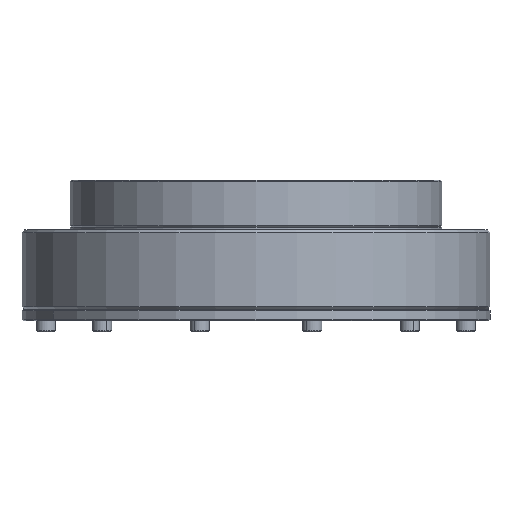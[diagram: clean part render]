
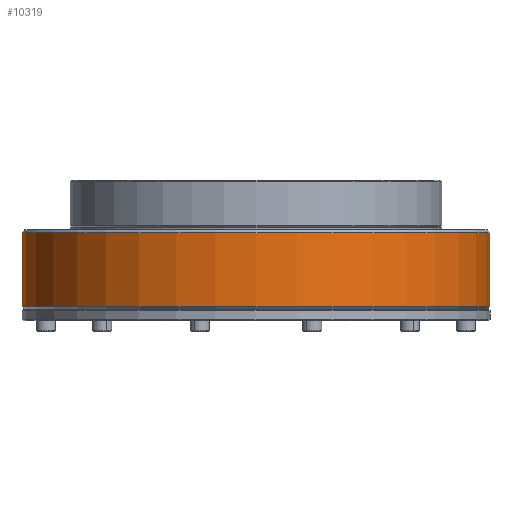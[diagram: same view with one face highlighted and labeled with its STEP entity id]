
A CAD part, front view. The second image highlights one B-rep face of the part: STEP entity #10319.
In plain terms, the highlighted cylindrical face has radius 85 mm (diameter 170 mm), a partial arc.
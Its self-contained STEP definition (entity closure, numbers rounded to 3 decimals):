
#848 = VECTOR ( 'NONE', #12763, 1000. ) ;
#1292 = EDGE_LOOP ( 'NONE', ( #2472, #2826, #13202, #3801 ) ) ;
#1575 = VECTOR ( 'NONE', #8483, 1000. ) ;
#1927 = LINE ( 'NONE', #9562, #1575 ) ;
#2073 = DIRECTION ( 'NONE',  ( 0., 0., -1. ) ) ;
#2342 = CARTESIAN_POINT ( 'NONE',  ( 8.494, -6.297, 184. ) ) ;
#2359 = DIRECTION ( 'NONE',  ( -1., 0., 0. ) ) ;
#2472 = ORIENTED_EDGE ( 'NONE', *, *, #3288, .F. ) ;
#2826 = ORIENTED_EDGE ( 'NONE', *, *, #9997, .T. ) ;
#3288 = EDGE_CURVE ( 'NONE', #3512, #7516, #1927, .T. ) ;
#3388 = CIRCLE ( 'NONE', #4833, 85. ) ;
#3406 = VERTEX_POINT ( 'NONE', #6062 ) ;
#3512 = VERTEX_POINT ( 'NONE', #5305 ) ;
#3801 = ORIENTED_EDGE ( 'NONE', *, *, #9431, .T. ) ;
#4413 = CYLINDRICAL_SURFACE ( 'NONE', #12501, 85. ) ;
#4833 = AXIS2_PLACEMENT_3D ( 'NONE', #9387, #9369, #9345 ) ;
#5305 = CARTESIAN_POINT ( 'NONE',  ( 93.494, -6.297, 183. ) ) ;
#5960 = CARTESIAN_POINT ( 'NONE',  ( 93.494, -6.297, 156. ) ) ;
#6062 = CARTESIAN_POINT ( 'NONE',  ( -76.506, -6.297, 156. ) ) ;
#6197 = EDGE_CURVE ( 'NONE', #10053, #3406, #6707, .T. ) ;
#6707 = LINE ( 'NONE', #12712, #848 ) ;
#7516 = VERTEX_POINT ( 'NONE', #5960 ) ;
#8271 = AXIS2_PLACEMENT_3D ( 'NONE', #11559, #12818, #11389 ) ;
#8483 = DIRECTION ( 'NONE',  ( 0., 0., -1. ) ) ;
#9345 = DIRECTION ( 'NONE',  ( 1., 0., 0. ) ) ;
#9369 = DIRECTION ( 'NONE',  ( 0., 0., 1. ) ) ;
#9387 = CARTESIAN_POINT ( 'NONE',  ( 8.494, -6.297, 156. ) ) ;
#9431 = EDGE_CURVE ( 'NONE', #3406, #7516, #3388, .T. ) ;
#9562 = CARTESIAN_POINT ( 'NONE',  ( 93.494, -6.297, 184. ) ) ;
#9997 = EDGE_CURVE ( 'NONE', #3512, #10053, #13265, .T. ) ;
#10053 = VERTEX_POINT ( 'NONE', #12268 ) ;
#10319 = ADVANCED_FACE ( 'NONE', ( #10337 ), #4413, .T. ) ;
#10337 = FACE_OUTER_BOUND ( 'NONE', #1292, .T. ) ;
#11389 = DIRECTION ( 'NONE',  ( 1., 0., 0. ) ) ;
#11559 = CARTESIAN_POINT ( 'NONE',  ( 8.494, -6.297, 183. ) ) ;
#12268 = CARTESIAN_POINT ( 'NONE',  ( -76.506, -6.297, 183. ) ) ;
#12501 = AXIS2_PLACEMENT_3D ( 'NONE', #2342, #2073, #2359 ) ;
#12712 = CARTESIAN_POINT ( 'NONE',  ( -76.506, -6.297, 184. ) ) ;
#12763 = DIRECTION ( 'NONE',  ( 0., 0., -1. ) ) ;
#12818 = DIRECTION ( 'NONE',  ( 0., 0., -1. ) ) ;
#13202 = ORIENTED_EDGE ( 'NONE', *, *, #6197, .T. ) ;
#13265 = CIRCLE ( 'NONE', #8271, 85. ) ;
